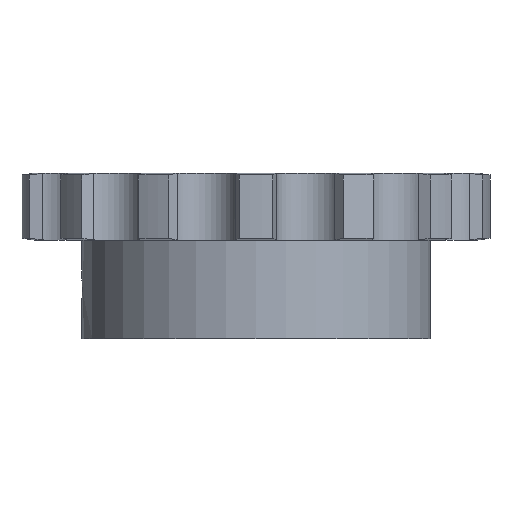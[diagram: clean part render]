
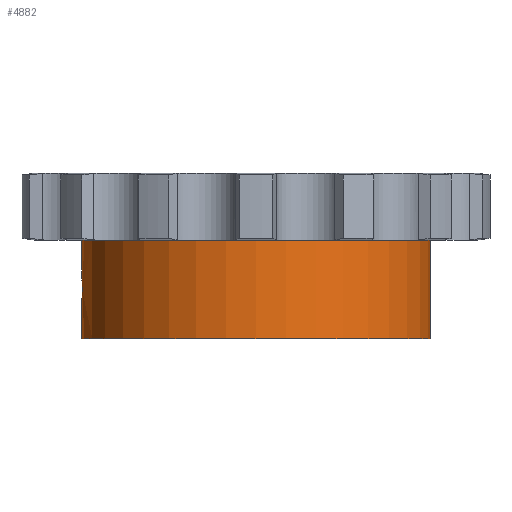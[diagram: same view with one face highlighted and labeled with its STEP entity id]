
A CAD part, front view. The second image highlights one B-rep face of the part: STEP entity #4882.
In plain terms, the highlighted cylindrical face has radius 42 mm (diameter 84 mm), a partial arc.
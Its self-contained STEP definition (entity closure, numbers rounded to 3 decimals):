
#943=CARTESIAN_POINT('',(0.,0.,-8.1));
#944=DIRECTION('',(0.,0.,1.));
#945=DIRECTION('',(-1.,0.,0.));
#946=AXIS2_PLACEMENT_3D('',#943,#944,#945);
#2268=CARTESIAN_POINT('',(-42.,0.,
-17.));
#2291=DIRECTION('',(0.,0.,1.));
#2292=VECTOR('',#2291,23.8);
#2293=CARTESIAN_POINT('',(42.,0.,-31.9));
#2294=LINE('',#2293,#2292);
#2412=CARTESIAN_POINT('',(-42.,0.,
-17.));
#2413=CARTESIAN_POINT('',(-42.,-0.126,
-17.));
#2414=CARTESIAN_POINT('',(-41.999,-0.404,
-17.017));
#2415=CARTESIAN_POINT('',(-41.993,-0.83,
-17.102));
#2416=CARTESIAN_POINT('',(-41.982,-1.263,
-17.258));
#2417=CARTESIAN_POINT('',(-41.968,-1.667,
-17.476));
#2418=CARTESIAN_POINT('',(-41.951,-2.031,
-17.75));
#2419=CARTESIAN_POINT('',(-41.935,-2.349,
-18.073));
#2420=CARTESIAN_POINT('',(-41.919,-2.614,
-18.44));
#2421=CARTESIAN_POINT('',(-41.905,-2.822,
-18.843));
#2422=CARTESIAN_POINT('',(-41.895,-2.965,
-19.269));
#2423=CARTESIAN_POINT('',(-41.89,-3.033,
-19.659));
#2424=CARTESIAN_POINT('',(-41.889,-3.045,
-19.902));
#2425=CARTESIAN_POINT('',(-41.889,-3.045,
-20.));
#2430=DIRECTION('',(0.,0.,1.));
#2431=VECTOR('',#2430,8.9);
#2432=CARTESIAN_POINT('',(-42.,0.,
-17.));
#2433=LINE('',#2432,#2431);
#2437=DIRECTION('',(0.,0.,1.));
#2438=VECTOR('',#2437,8.9);
#2439=CARTESIAN_POINT('',(-42.,0.,-31.9));
#2440=LINE('',#2439,#2438);
#2444=CARTESIAN_POINT('',(-41.889,-3.045,
-20.));
#2445=CARTESIAN_POINT('',(-41.889,-3.045,
-20.11));
#2446=CARTESIAN_POINT('',(-41.89,-3.031,
-20.364));
#2447=CARTESIAN_POINT('',(-41.896,-2.956,
-20.764));
#2448=CARTESIAN_POINT('',(-41.906,-2.81,
-21.185));
#2449=CARTESIAN_POINT('',(-41.92,-2.6,
-21.583));
#2450=CARTESIAN_POINT('',(-41.935,-2.334,
-21.944));
#2451=CARTESIAN_POINT('',(-41.952,-2.016,
-22.263));
#2452=CARTESIAN_POINT('',(-41.968,-1.654,
-22.532));
#2453=CARTESIAN_POINT('',(-41.982,-1.252,
-22.747));
#2454=CARTESIAN_POINT('',(-41.993,-0.822,
-22.9));
#2455=CARTESIAN_POINT('',(-41.999,-0.401,
-22.983));
#2456=CARTESIAN_POINT('',(-42.,-0.124,
-23.));
#2457=CARTESIAN_POINT('',(-42.,0.,
-23.));
#2470=CARTESIAN_POINT('',(0.,0.,-31.9));
#2471=DIRECTION('',(0.,0.,-1.));
#2472=DIRECTION('',(1.,0.,0.));
#2473=AXIS2_PLACEMENT_3D('',#2470,#2471,#2472);
#2811=CARTESIAN_POINT('',(-42.,0.,-31.9));
#2812=CARTESIAN_POINT('',(42.,0.,-31.9));
#2813=VERTEX_POINT('',#2811);
#2814=VERTEX_POINT('',#2812);
#2815=CARTESIAN_POINT('',(42.,0.,-8.1));
#2816=VERTEX_POINT('',#2815);
#2817=CARTESIAN_POINT('',(-42.,0.,-8.1));
#2818=VERTEX_POINT('',#2817);
#2970=VERTEX_POINT('',#2268);
#2973=VERTEX_POINT('',#2425);
#2975=VERTEX_POINT('',#2457);
#4866=CARTESIAN_POINT('',(0.,0.,8.1));
#4867=DIRECTION('',(0.,0.,1.));
#4868=DIRECTION('',(1.,0.,0.));
#4869=AXIS2_PLACEMENT_3D('',#4866,#4867,#4868);
#4870=CYLINDRICAL_SURFACE('',#4869,42.);
#4871=ORIENTED_EDGE('',*,*,#4856,.F.);
#4872=ORIENTED_EDGE('',*,*,#4471,.T.);
#4873=ORIENTED_EDGE('',*,*,#3849,.T.);
#4874=ORIENTED_EDGE('',*,*,#4468,.F.);
#4876=ORIENTED_EDGE('',*,*,#4875,.T.);
#4877=ORIENTED_EDGE('',*,*,#4464,.T.);
#4879=ORIENTED_EDGE('',*,*,#4878,.F.);
#4880=EDGE_LOOP('',(#4871,#4872,#4873,#4874,#4876,#4877,#4879));
#4881=FACE_OUTER_BOUND('',#4880,.F.);
#4882=ADVANCED_FACE('',(#4881),#4870,.T.);
#947=CIRCLE('',#946,42.);
#2426=B_SPLINE_CURVE_WITH_KNOTS('',3,(#2412,#2413,#2414,#2415,#2416,#2417,#2418,
#2419,#2420,#2421,#2422,#2423,#2424,#2425),.UNSPECIFIED.,.F.,.F.,(4,1,1,1,1,1,1,
1,1,1,1,4),(0.,0.078,0.174,0.269,
0.364,0.459,0.555,0.65,
0.745,0.84,0.935,1.),.UNSPECIFIED.);
#2458=B_SPLINE_CURVE_WITH_KNOTS('',3,(#2444,#2445,#2446,#2447,#2448,#2449,#2450,
#2451,#2452,#2453,#2454,#2455,#2456,#2457),.UNSPECIFIED.,.F.,.F.,(4,1,1,1,1,1,1,
1,1,1,1,4),(0.,0.073,0.167,0.262,
0.356,0.45,0.545,0.639,
0.734,0.828,0.922,1.),.UNSPECIFIED.);
#2474=CIRCLE('',#2473,42.);
#3849=EDGE_CURVE('',#2818,#2816,#947,.T.);
#4464=EDGE_CURVE('',#2813,#2975,#2440,.T.);
#4468=EDGE_CURVE('',#2814,#2816,#2294,.T.);
#4471=EDGE_CURVE('',#2970,#2818,#2433,.T.);
#4856=EDGE_CURVE('',#2970,#2973,#2426,.T.);
#4875=EDGE_CURVE('',#2814,#2813,#2474,.T.);
#4878=EDGE_CURVE('',#2973,#2975,#2458,.T.);
